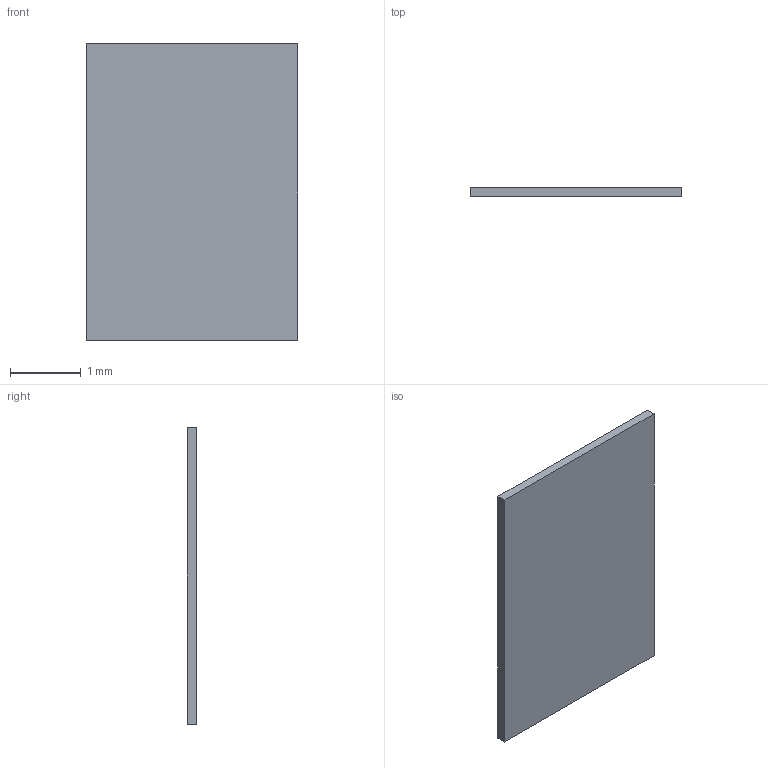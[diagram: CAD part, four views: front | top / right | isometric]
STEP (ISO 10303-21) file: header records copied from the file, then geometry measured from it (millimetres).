
FILE_DESCRIPTION(('Open CASCADE Model'),'2;1');
FILE_NAME('Open CASCADE Shape Model','2026-11-23T18:10:19',('Author'),( 'Open CASCADE'),'Open CASCADE STEP processor 8.0','build123d', 'Unknown');
FILE_SCHEMA(('AUTOMOTIVE_DESIGN { 1 0 10303 214 1 1 1 1 }'));
Length unit declared in the file: millimetre
Products named in the file (2): =>[0:1:1:2]; COMPOUND
Assembly tree (1 placements, depth 2):
  =>[0:1:1:2]
    COMPOUND
Bounding box: 3 x 0.13 x 4.2 mm (x, y, z)
Volume: 1.6 mm3; surface area: 27.1 mm2
Topology: 1 solids, 1 shells, 6 faces, 12 edges, 8 vertices
Faces by surface type: plane 6
Entity records: 340 total; most frequent: CARTESIAN_POINT 52, DIRECTION 52, LINE 36, VECTOR 36, ORIENTED_EDGE 24, PCURVE 24, DEFINITIONAL_REPRESENTATION 24, EDGE_CURVE 12
